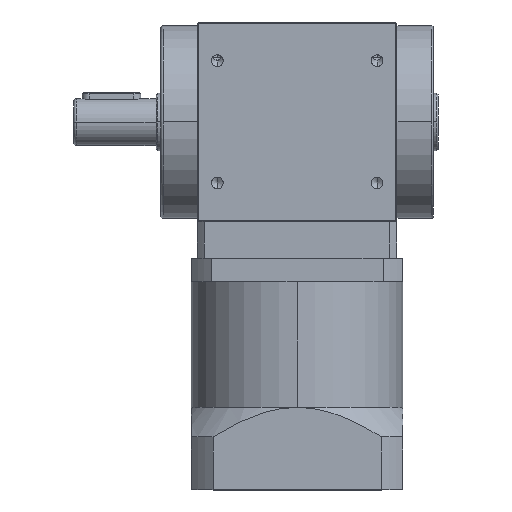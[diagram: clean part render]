
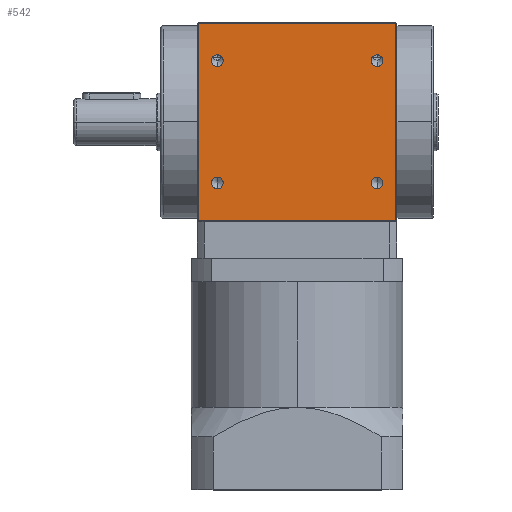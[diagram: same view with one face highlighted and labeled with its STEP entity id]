
A CAD part, top view. The second image highlights one B-rep face of the part: STEP entity #542.
In plain terms, the highlighted planar face has unit normal (0, 0, 1).
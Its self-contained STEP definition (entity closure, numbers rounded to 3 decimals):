
#172 = ORIENTED_EDGE ( 'NONE', *, *, #2085, .F. ) ;
#188 = VERTEX_POINT ( 'NONE', #5174 ) ;
#190 = CARTESIAN_POINT ( 'NONE',  ( 34., 23.5, 42.5 ) ) ;
#542 = ADVANCED_FACE ( 'NONE', ( #8396, #8388, #8360, #8219, #8156 ), #9753, .F. ) ;
#546 = EDGE_CURVE ( 'NONE', #188, #5265, #7773, .T. ) ;
#994 = CARTESIAN_POINT ( 'NONE',  ( -34., 28.5, 42.5 ) ) ;
#1004 = AXIS2_PLACEMENT_3D ( 'NONE', #8689, #8814, #8643 ) ;
#1150 = CIRCLE ( 'NONE', #6984, 2.5 ) ;
#1322 = AXIS2_PLACEMENT_3D ( 'NONE', #3989, #2454, #2439 ) ;
#1411 = AXIS2_PLACEMENT_3D ( 'NONE', #1552, #1545, #1534 ) ;
#1475 = ORIENTED_EDGE ( 'NONE', *, *, #6891, .T. ) ;
#1534 = DIRECTION ( 'NONE',  ( 0., -1., 0. ) ) ;
#1545 = DIRECTION ( 'NONE',  ( 0., 0., 1. ) ) ;
#1552 = CARTESIAN_POINT ( 'NONE',  ( 34., -26., 42.5 ) ) ;
#1667 = VERTEX_POINT ( 'NONE', #4997 ) ;
#1746 = VERTEX_POINT ( 'NONE', #5459 ) ;
#1887 = VERTEX_POINT ( 'NONE', #4065 ) ;
#2006 = EDGE_CURVE ( 'NONE', #4679, #188, #4750, .T. ) ;
#2012 = DIRECTION ( 'NONE',  ( -1., 0., 0. ) ) ;
#2070 = AXIS2_PLACEMENT_3D ( 'NONE', #9073, #8911, #8788 ) ;
#2085 = EDGE_CURVE ( 'NONE', #7954, #4679, #5320, .T. ) ;
#2165 = EDGE_CURVE ( 'NONE', #1746, #1667, #5742, .T. ) ;
#2182 = EDGE_LOOP ( 'NONE', ( #5748, #5591 ) ) ;
#2333 = CARTESIAN_POINT ( 'NONE',  ( 0., 42., 42.5 ) ) ;
#2439 = DIRECTION ( 'NONE',  ( 0., -1., 0. ) ) ;
#2454 = DIRECTION ( 'NONE',  ( 0., 0., 1. ) ) ;
#2544 = EDGE_CURVE ( 'NONE', #7344, #1887, #9276, .T. ) ;
#2647 = EDGE_CURVE ( 'NONE', #8354, #9363, #10120, .T. ) ;
#2713 = EDGE_CURVE ( 'NONE', #3466, #9018, #9510, .T. ) ;
#2828 = DIRECTION ( 'NONE',  ( 0., -1., 0. ) ) ;
#2834 = DIRECTION ( 'NONE',  ( 0., 0., 1. ) ) ;
#2845 = CARTESIAN_POINT ( 'NONE',  ( -34., -26., 42.5 ) ) ;
#3066 = DIRECTION ( 'NONE',  ( 0., -1., 0. ) ) ;
#3068 = VECTOR ( 'NONE', #2012, 1000. ) ;
#3071 = CARTESIAN_POINT ( 'NONE',  ( 42., 0., 42.5 ) ) ;
#3466 = VERTEX_POINT ( 'NONE', #8176 ) ;
#3481 = AXIS2_PLACEMENT_3D ( 'NONE', #9408, #9338, #9443 ) ;
#3497 = CARTESIAN_POINT ( 'NONE',  ( 34., -28.5, 42.5 ) ) ;
#3685 = CARTESIAN_POINT ( 'NONE',  ( 0., -42., 42.5 ) ) ;
#3710 = DIRECTION ( 'NONE',  ( -1., 0., 0. ) ) ;
#3989 = CARTESIAN_POINT ( 'NONE',  ( -34., -26., 42.5 ) ) ;
#3997 = DIRECTION ( 'NONE',  ( 0., -1., 0. ) ) ;
#4046 = CARTESIAN_POINT ( 'NONE',  ( 34., 26., 42.5 ) ) ;
#4065 = CARTESIAN_POINT ( 'NONE',  ( 34., -23.5, 42.5 ) ) ;
#4125 = DIRECTION ( 'NONE',  ( 0., 0., 1. ) ) ;
#4278 = AXIS2_PLACEMENT_3D ( 'NONE', #2845, #2834, #2828 ) ;
#4360 = EDGE_CURVE ( 'NONE', #1667, #1746, #6376, .T. ) ;
#4426 = EDGE_CURVE ( 'NONE', #1887, #7344, #6789, .T. ) ;
#4462 = ORIENTED_EDGE ( 'NONE', *, *, #2713, .F. ) ;
#4628 = EDGE_CURVE ( 'NONE', #9363, #8354, #6727, .T. ) ;
#4679 = VERTEX_POINT ( 'NONE', #9180 ) ;
#4750 = LINE ( 'NONE', #3685, #4809 ) ;
#4809 = VECTOR ( 'NONE', #3710, 1000. ) ;
#4870 = AXIS2_PLACEMENT_3D ( 'NONE', #7128, #7303, #7304 ) ;
#4995 = LINE ( 'NONE', #2333, #3068 ) ;
#4997 = CARTESIAN_POINT ( 'NONE',  ( -34., -23.5, 42.5 ) ) ;
#5174 = CARTESIAN_POINT ( 'NONE',  ( -42., -42., 42.5 ) ) ;
#5265 = VERTEX_POINT ( 'NONE', #8637 ) ;
#5320 = LINE ( 'NONE', #3071, #5350 ) ;
#5350 = VECTOR ( 'NONE', #3066, 1000. ) ;
#5420 = ORIENTED_EDGE ( 'NONE', *, *, #6542, .F. ) ;
#5459 = CARTESIAN_POINT ( 'NONE',  ( -34., -28.5, 42.5 ) ) ;
#5591 = ORIENTED_EDGE ( 'NONE', *, *, #2647, .F. ) ;
#5742 = CIRCLE ( 'NONE', #1322, 2.5 ) ;
#5748 = ORIENTED_EDGE ( 'NONE', *, *, #4628, .F. ) ;
#6073 = ORIENTED_EDGE ( 'NONE', *, *, #546, .F. ) ;
#6376 = CIRCLE ( 'NONE', #4278, 2.5 ) ;
#6542 = EDGE_CURVE ( 'NONE', #9018, #3466, #1150, .T. ) ;
#6727 = CIRCLE ( 'NONE', #1004, 2.5 ) ;
#6789 = CIRCLE ( 'NONE', #1411, 2.5 ) ;
#6891 = EDGE_CURVE ( 'NONE', #7954, #5265, #4995, .T. ) ;
#6984 = AXIS2_PLACEMENT_3D ( 'NONE', #4046, #4125, #3997 ) ;
#6996 = EDGE_LOOP ( 'NONE', ( #5420, #4462 ) ) ;
#7039 = ORIENTED_EDGE ( 'NONE', *, *, #2165, .F. ) ;
#7126 = EDGE_LOOP ( 'NONE', ( #172, #1475, #6073, #8531 ) ) ;
#7128 = CARTESIAN_POINT ( 'NONE',  ( 34., 26., 42.5 ) ) ;
#7303 = DIRECTION ( 'NONE',  ( 0., 0., 1. ) ) ;
#7304 = DIRECTION ( 'NONE',  ( 0., -1., 0. ) ) ;
#7344 = VERTEX_POINT ( 'NONE', #3497 ) ;
#7739 = EDGE_LOOP ( 'NONE', ( #7039, #9458 ) ) ;
#7773 = LINE ( 'NONE', #8734, #7803 ) ;
#7803 = VECTOR ( 'NONE', #8724, 1000. ) ;
#7853 = CARTESIAN_POINT ( 'NONE',  ( 42., 42., 42.5 ) ) ;
#7861 = ORIENTED_EDGE ( 'NONE', *, *, #2544, .F. ) ;
#7954 = VERTEX_POINT ( 'NONE', #7853 ) ;
#8156 = FACE_BOUND ( 'NONE', #2182, .T. ) ;
#8176 = CARTESIAN_POINT ( 'NONE',  ( 34., 28.5, 42.5 ) ) ;
#8219 = FACE_BOUND ( 'NONE', #9754, .T. ) ;
#8354 = VERTEX_POINT ( 'NONE', #994 ) ;
#8360 = FACE_BOUND ( 'NONE', #7739, .T. ) ;
#8388 = FACE_BOUND ( 'NONE', #6996, .T. ) ;
#8396 = FACE_OUTER_BOUND ( 'NONE', #7126, .T. ) ;
#8436 = CARTESIAN_POINT ( 'NONE',  ( -34., 23.5, 42.5 ) ) ;
#8531 = ORIENTED_EDGE ( 'NONE', *, *, #2006, .F. ) ;
#8605 = DIRECTION ( 'NONE',  ( 0., -1., 0. ) ) ;
#8637 = CARTESIAN_POINT ( 'NONE',  ( -42., 42., 42.5 ) ) ;
#8643 = DIRECTION ( 'NONE',  ( 0., -1., 0. ) ) ;
#8689 = CARTESIAN_POINT ( 'NONE',  ( -34., 26., 42.5 ) ) ;
#8724 = DIRECTION ( 'NONE',  ( 0., 1., 0. ) ) ;
#8730 = CARTESIAN_POINT ( 'NONE',  ( -34., 26., 42.5 ) ) ;
#8734 = CARTESIAN_POINT ( 'NONE',  ( -42., 0., 42.5 ) ) ;
#8788 = DIRECTION ( 'NONE',  ( -1., 0., 0. ) ) ;
#8814 = DIRECTION ( 'NONE',  ( 0., 0., 1. ) ) ;
#8911 = DIRECTION ( 'NONE',  ( 0., 0., -1. ) ) ;
#9018 = VERTEX_POINT ( 'NONE', #190 ) ;
#9029 = ORIENTED_EDGE ( 'NONE', *, *, #4426, .F. ) ;
#9057 = DIRECTION ( 'NONE',  ( 0., 0., 1. ) ) ;
#9073 = CARTESIAN_POINT ( 'NONE',  ( 0., 0., 42.5 ) ) ;
#9180 = CARTESIAN_POINT ( 'NONE',  ( 42., -42., 42.5 ) ) ;
#9276 = CIRCLE ( 'NONE', #3481, 2.5 ) ;
#9338 = DIRECTION ( 'NONE',  ( 0., 0., 1. ) ) ;
#9363 = VERTEX_POINT ( 'NONE', #8436 ) ;
#9408 = CARTESIAN_POINT ( 'NONE',  ( 34., -26., 42.5 ) ) ;
#9443 = DIRECTION ( 'NONE',  ( 0., -1., 0. ) ) ;
#9458 = ORIENTED_EDGE ( 'NONE', *, *, #4360, .F. ) ;
#9510 = CIRCLE ( 'NONE', #4870, 2.5 ) ;
#9753 = PLANE ( 'NONE',  #2070 ) ;
#9754 = EDGE_LOOP ( 'NONE', ( #7861, #9029 ) ) ;
#10087 = AXIS2_PLACEMENT_3D ( 'NONE', #8730, #9057, #8605 ) ;
#10120 = CIRCLE ( 'NONE', #10087, 2.5 ) ;
